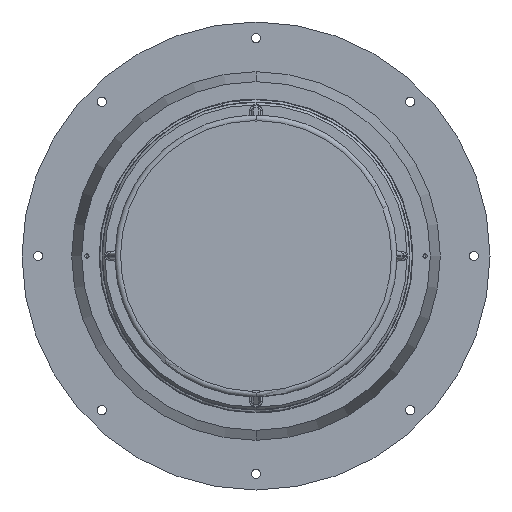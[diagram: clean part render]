
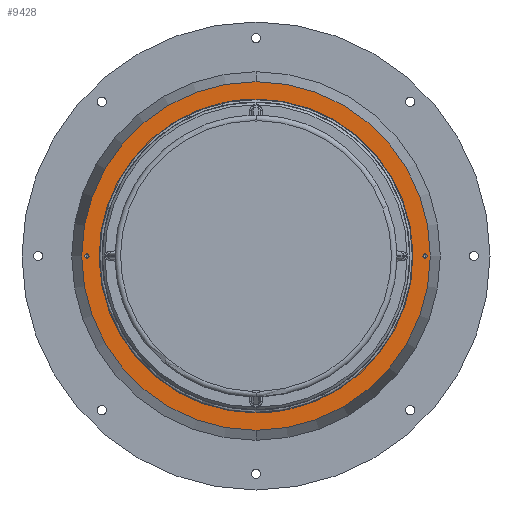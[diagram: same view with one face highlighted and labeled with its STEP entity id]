
A CAD part, front view. The second image highlights one B-rep face of the part: STEP entity #9428.
In plain terms, the highlighted planar face has unit normal (0, -1, 0).
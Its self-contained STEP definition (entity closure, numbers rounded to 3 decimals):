
#336 = EDGE_LOOP ( 'NONE', ( #423108, #406456 ) ) ;
#406 = DIRECTION ( 'NONE',  ( 0., -1., 0. ) ) ;
#1357 = VERTEX_POINT ( 'NONE', #142390 ) ;
#9428 = ADVANCED_FACE ( 'NONE', ( #156632, #144995, #46666, #427464 ), #142761, .T. ) ;
#10823 = AXIS2_PLACEMENT_3D ( 'NONE', #139936, #397819, #177127 ) ;
#14712 = CARTESIAN_POINT ( 'NONE',  ( -330., -724.968, 0. ) ) ;
#15642 = CARTESIAN_POINT ( 'NONE',  ( 0., -724.968, 340. ) ) ;
#30032 = DIRECTION ( 'NONE',  ( 0., 0., -1. ) ) ;
#46666 = FACE_OUTER_BOUND ( 'NONE', #336, .T. ) ;
#47121 = DIRECTION ( 'NONE',  ( 0., -1., 0. ) ) ;
#51841 = DIRECTION ( 'NONE',  ( 0., 0., -1. ) ) ;
#51912 = VERTEX_POINT ( 'NONE', #365890 ) ;
#53533 = CIRCLE ( 'NONE', #10823, 340. ) ;
#66438 = CIRCLE ( 'NONE', #140263, 4.25 ) ;
#78300 = CIRCLE ( 'NONE', #121228, 4.25 ) ;
#89743 = ORIENTED_EDGE ( 'NONE', *, *, #232893, .F. ) ;
#93779 = CARTESIAN_POINT ( 'NONE',  ( 0., -724.968, 0. ) ) ;
#118481 = VERTEX_POINT ( 'NONE', #279451 ) ;
#119072 = AXIS2_PLACEMENT_3D ( 'NONE', #93779, #351900, #130951 ) ;
#121228 = AXIS2_PLACEMENT_3D ( 'NONE', #437028, #216309, #474118 ) ;
#130951 = DIRECTION ( 'NONE',  ( 0., 0., -1. ) ) ;
#139936 = CARTESIAN_POINT ( 'NONE',  ( 0., -724.968, 0. ) ) ;
#140198 = CIRCLE ( 'NONE', #119072, 340. ) ;
#140263 = AXIS2_PLACEMENT_3D ( 'NONE', #268321, #47121, #305314 ) ;
#142390 = CARTESIAN_POINT ( 'NONE',  ( 0., -724.968, 305. ) ) ;
#142761 = PLANE ( 'NONE',  #204709 ) ;
#144388 = CARTESIAN_POINT ( 'NONE',  ( 305., -724.968, 0. ) ) ;
#144995 = FACE_BOUND ( 'NONE', #185437, .T. ) ;
#148196 = CIRCLE ( 'NONE', #183577, 305. ) ;
#148544 = DIRECTION ( 'NONE',  ( 0., -1., 0. ) ) ;
#156632 = FACE_BOUND ( 'NONE', #266841, .T. ) ;
#163817 = CARTESIAN_POINT ( 'NONE',  ( 0., -724.968, -305. ) ) ;
#171457 = AXIS2_PLACEMENT_3D ( 'NONE', #221750, #406, #258825 ) ;
#177127 = DIRECTION ( 'NONE',  ( 0., 0., -1. ) ) ;
#181504 = DIRECTION ( 'NONE',  ( 0., 0., -1. ) ) ;
#183577 = AXIS2_PLACEMENT_3D ( 'NONE', #369357, #148544, #406361 ) ;
#185437 = EDGE_LOOP ( 'NONE', ( #362503, #219160 ) ) ;
#204709 = AXIS2_PLACEMENT_3D ( 'NONE', #144388, #402212, #181504 ) ;
#207506 = VERTEX_POINT ( 'NONE', #454797 ) ;
#213225 = VERTEX_POINT ( 'NONE', #15642 ) ;
#216309 = DIRECTION ( 'NONE',  ( 0., -1., 0. ) ) ;
#219160 = ORIENTED_EDGE ( 'NONE', *, *, #237794, .F. ) ;
#219561 = CARTESIAN_POINT ( 'NONE',  ( 0., -724.968, -340. ) ) ;
#221750 = CARTESIAN_POINT ( 'NONE',  ( 330., -724.968, 0. ) ) ;
#221868 = VERTEX_POINT ( 'NONE', #316808 ) ;
#232893 = EDGE_CURVE ( 'NONE', #51912, #118481, #78300, .T. ) ;
#237794 = EDGE_CURVE ( 'NONE', #221868, #207506, #66438, .T. ) ;
#241949 = EDGE_CURVE ( 'NONE', #308698, #213225, #140198, .T. ) ;
#245804 = VERTEX_POINT ( 'NONE', #163817 ) ;
#251256 = DIRECTION ( 'NONE',  ( 0., -1., 0. ) ) ;
#258825 = DIRECTION ( 'NONE',  ( 0., 0., -1. ) ) ;
#262559 = CIRCLE ( 'NONE', #171457, 4.25 ) ;
#263211 = EDGE_CURVE ( 'NONE', #1357, #245804, #148196, .T. ) ;
#266122 = EDGE_CURVE ( 'NONE', #118481, #51912, #262559, .T. ) ;
#266670 = EDGE_CURVE ( 'NONE', #207506, #221868, #475651, .T. ) ;
#266841 = EDGE_LOOP ( 'NONE', ( #397929, #89743 ) ) ;
#268321 = CARTESIAN_POINT ( 'NONE',  ( -330., -724.968, 0. ) ) ;
#268743 = EDGE_CURVE ( 'NONE', #213225, #308698, #53533, .T. ) ;
#268817 = EDGE_CURVE ( 'NONE', #245804, #1357, #348047, .T. ) ;
#273015 = DIRECTION ( 'NONE',  ( 0., -1., 0. ) ) ;
#279451 = CARTESIAN_POINT ( 'NONE',  ( 330., -724.968, -4.25 ) ) ;
#305314 = DIRECTION ( 'NONE',  ( 0., 0., -1. ) ) ;
#308698 = VERTEX_POINT ( 'NONE', #219561 ) ;
#316808 = CARTESIAN_POINT ( 'NONE',  ( -330., -724.968, 4.25 ) ) ;
#338988 = EDGE_LOOP ( 'NONE', ( #349908, #406811 ) ) ;
#348047 = CIRCLE ( 'NONE', #465115, 305. ) ;
#349908 = ORIENTED_EDGE ( 'NONE', *, *, #268817, .F. ) ;
#351900 = DIRECTION ( 'NONE',  ( 0., -1., 0. ) ) ;
#362503 = ORIENTED_EDGE ( 'NONE', *, *, #266670, .F. ) ;
#365890 = CARTESIAN_POINT ( 'NONE',  ( 330., -724.968, 4.25 ) ) ;
#369357 = CARTESIAN_POINT ( 'NONE',  ( 0., -724.968, 0. ) ) ;
#397819 = DIRECTION ( 'NONE',  ( 0., -1., 0. ) ) ;
#397929 = ORIENTED_EDGE ( 'NONE', *, *, #266122, .F. ) ;
#402212 = DIRECTION ( 'NONE',  ( 0., -1., 0. ) ) ;
#406361 = DIRECTION ( 'NONE',  ( 0., 0., -1. ) ) ;
#406456 = ORIENTED_EDGE ( 'NONE', *, *, #268743, .T. ) ;
#406811 = ORIENTED_EDGE ( 'NONE', *, *, #263211, .F. ) ;
#423108 = ORIENTED_EDGE ( 'NONE', *, *, #241949, .T. ) ;
#427464 = FACE_BOUND ( 'NONE', #338988, .T. ) ;
#437028 = CARTESIAN_POINT ( 'NONE',  ( 330., -724.968, 0. ) ) ;
#454797 = CARTESIAN_POINT ( 'NONE',  ( -330., -724.968, -4.25 ) ) ;
#465115 = AXIS2_PLACEMENT_3D ( 'NONE', #472013, #251256, #30032 ) ;
#467953 = AXIS2_PLACEMENT_3D ( 'NONE', #14712, #273015, #51841 ) ;
#472013 = CARTESIAN_POINT ( 'NONE',  ( 0., -724.968, 0. ) ) ;
#474118 = DIRECTION ( 'NONE',  ( 0., 0., -1. ) ) ;
#475651 = CIRCLE ( 'NONE', #467953, 4.25 ) ;
